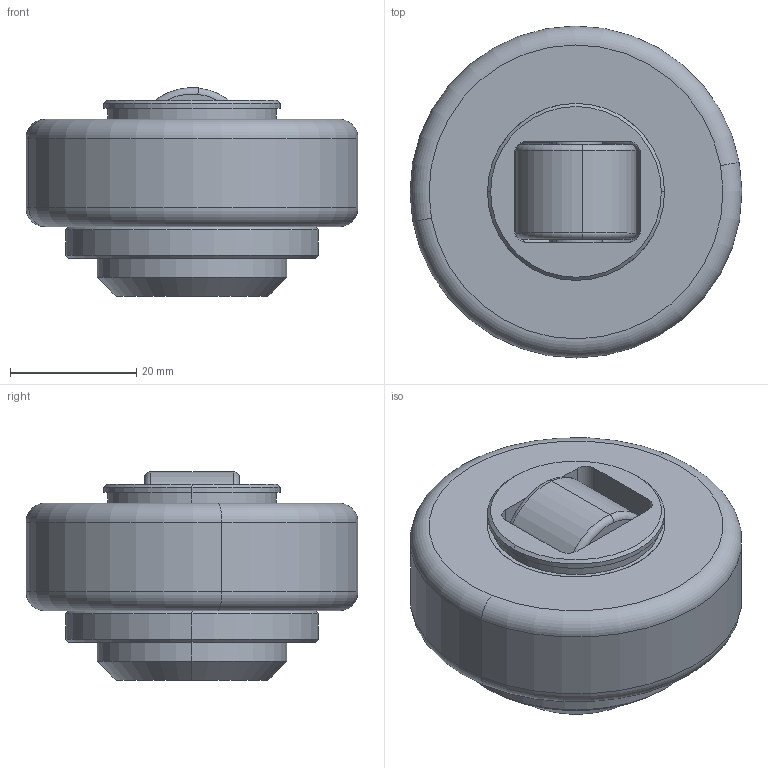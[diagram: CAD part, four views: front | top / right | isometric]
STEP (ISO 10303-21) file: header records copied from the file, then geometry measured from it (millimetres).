
FILE_DESCRIPTION (( 'STEP AP203' ), '1' );
FILE_NAME ('40053 CER.STEP', '2019-03-04T10:16:36', ( '' ), ( '' ), 'SwSTEP 2.0', 'SolidWorks 2011', '' );
FILE_SCHEMA (( 'CONFIG_CONTROL_DESIGN' ));
Length unit declared in the file: millimetre
Products named in the file (5): 40053 CER; RADIAL; RODILLO AXIAL; 403-0053; PASADOR AXIAL
Assembly tree (4 placements, depth 2):
  40053 CER
    403-0053
    PASADOR AXIAL
    RADIAL
    RODILLO AXIAL
Bounding box: 52.5 x 52.5 x 32.98 mm (x, y, z)
Volume: 46750.8 mm3; surface area: 15915.3 mm2
Topology: 4 solids, 4 shells, 76 faces, 159 edges, 96 vertices
Faces by surface type: cylinder 32, plane 16, torus 12, cone 12, bspline 4
Entity records: 2928 total; most frequent: CARTESIAN_POINT 730, DIRECTION 399, ORIENTED_EDGE 318, AXIS2_PLACEMENT_3D 173, EDGE_CURVE 159, VERTEX_POINT 96, CIRCLE 94, EDGE_LOOP 89
